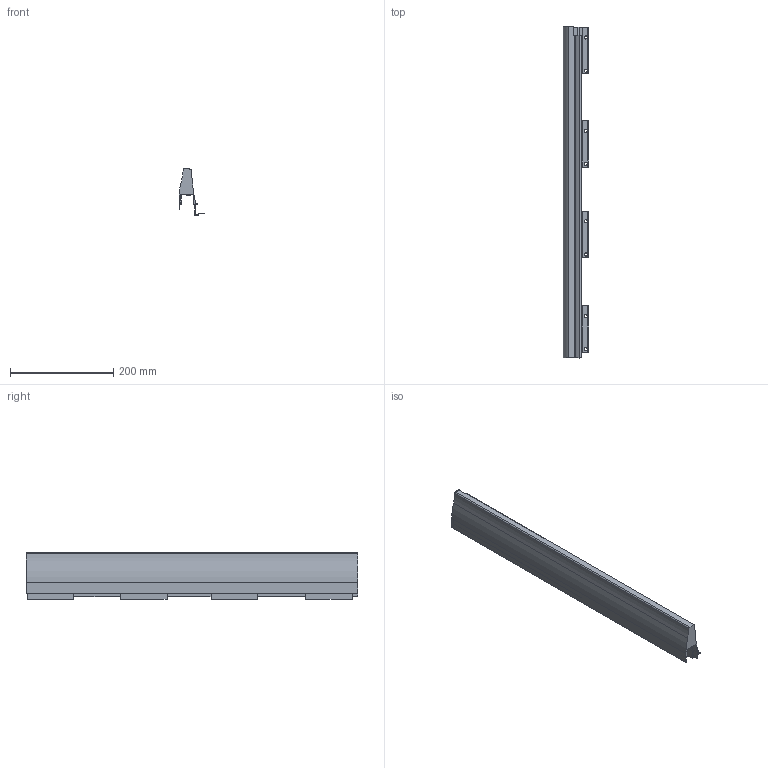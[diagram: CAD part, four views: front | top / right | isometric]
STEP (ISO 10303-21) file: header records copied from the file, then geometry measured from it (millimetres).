
FILE_DESCRIPTION (( 'STEP AP214' ), '1' );
FILE_NAME ('_XP Standard Dekorseite H95 NL650 LI .step', '2010-07-14T06:09:15', ( 'grass' ), ( '' ), 'SwSTEP 2.0', 'SolidWorks 2010', '' );
FILE_SCHEMA (( 'AUTOMOTIVE_DESIGN' ));
Length unit declared in the file: millimetre
Products named in the file (1): _XP Standard Dekorseite H95 NL650 LI 
Bounding box: 50.01 x 641.5 x 90 mm (x, y, z)
Volume: 782558.3 mm3; surface area: 209831.1 mm2
Topology: 1 solids, 1 shells, 161 faces, 474 edges, 308 vertices
Faces by surface type: plane 127, cylinder 34
Entity records: 5369 total; most frequent: ORIENTED_EDGE 948, CARTESIAN_POINT 944, DIRECTION 869, EDGE_CURVE 474, VECTOR 403, LINE 403, VERTEX_POINT 308, AXIS2_PLACEMENT_3D 233
